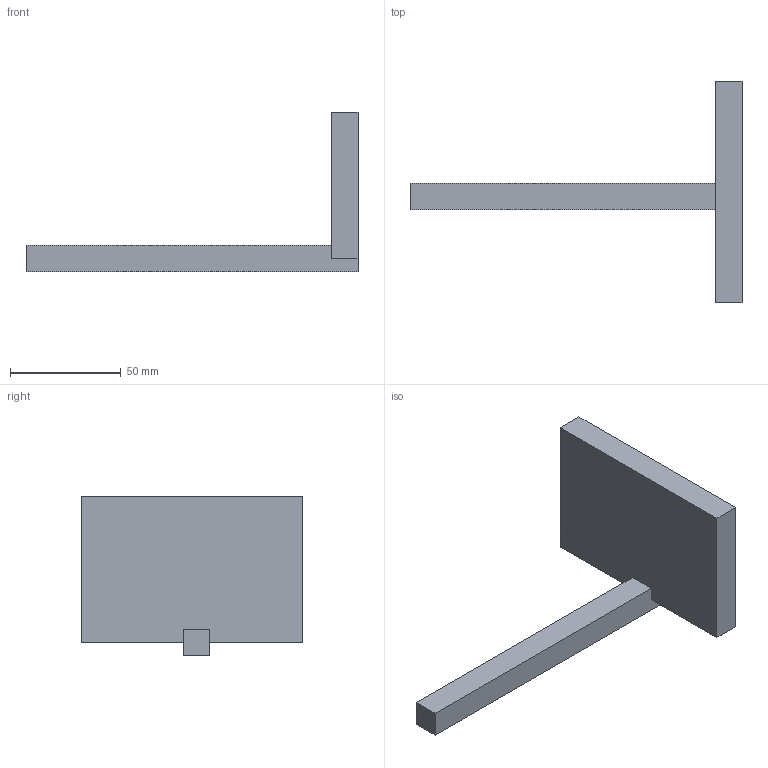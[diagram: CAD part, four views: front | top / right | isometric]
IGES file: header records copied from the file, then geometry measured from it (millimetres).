
Start section: Data from Parasolid IGES Translator 22.0.50, Copyright(c) 2006 Siemens P LM Software. All Rights Reserved.
Global section: file name: noorth-haus-H 7 D 10 W 14_4062.igs; native system: By Siemens PLM Incorporated; preprocessor: XPlus GENERIC/IGES 22.0.50; author: Noname; organization: Noname; date: 20251207.155006; units: metre
Bounding box: 149.81 x 100 x 71.9 mm (x, y, z)
Volume: 100652.7 mm3; surface area: 24640.6 mm2
Topology: 2 solids, 2 shells, 12 faces, 24 edges, 16 vertices
Faces by surface type: plane 12
